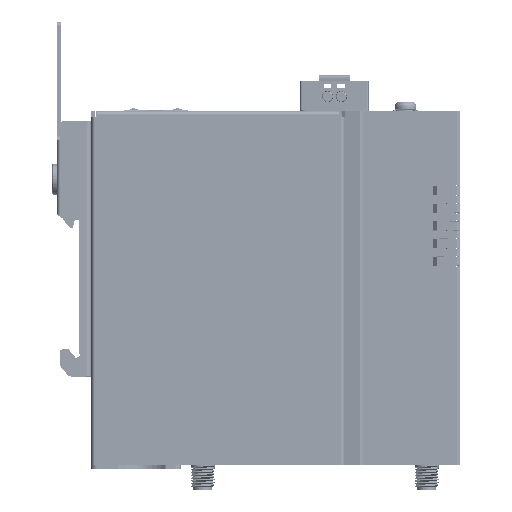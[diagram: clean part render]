
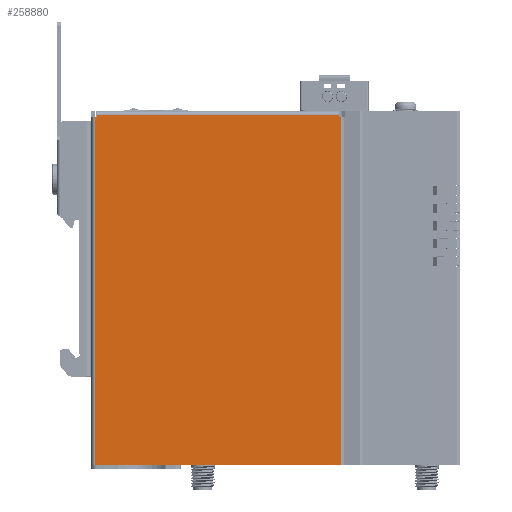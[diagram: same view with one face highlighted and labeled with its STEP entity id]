
A CAD part, top view. The second image highlights one B-rep face of the part: STEP entity #258880.
In plain terms, the highlighted planar face has unit normal (0, 0, 1) as drawn and (0, 1, 0) by its records, which use the part's own axes.
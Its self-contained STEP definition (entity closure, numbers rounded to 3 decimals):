
#5142 = DIRECTION ( 'NONE',  ( 0., 0., 1. ) ) ;
#9399 = FACE_OUTER_BOUND ( 'NONE', #272773, .T. ) ;
#12346 = ORIENTED_EDGE ( 'NONE', *, *, #126663, .F. ) ;
#13715 = VECTOR ( 'NONE', #97264, 1000. ) ;
#17451 = ORIENTED_EDGE ( 'NONE', *, *, #281261, .T. ) ;
#17738 = VERTEX_POINT ( 'NONE', #152803 ) ;
#17752 = VECTOR ( 'NONE', #163124, 1000. ) ;
#19542 = VECTOR ( 'NONE', #261545, 1000. ) ;
#22207 = ORIENTED_EDGE ( 'NONE', *, *, #36462, .F. ) ;
#22983 = LINE ( 'NONE', #235436, #17752 ) ;
#26308 = VERTEX_POINT ( 'NONE', #112976 ) ;
#30198 = DIRECTION ( 'NONE',  ( 1., 0., 0. ) ) ;
#36462 = EDGE_CURVE ( 'NONE', #128750, #26308, #121064, .T. ) ;
#37540 = VECTOR ( 'NONE', #41987, 1000. ) ;
#41987 = DIRECTION ( 'NONE',  ( 1., 0., 0. ) ) ;
#45248 = CARTESIAN_POINT ( 'NONE',  ( 30.481, 39., -90. ) ) ;
#52046 = EDGE_CURVE ( 'NONE', #17738, #151651, #269259, .T. ) ;
#81854 = EDGE_CURVE ( 'NONE', #216211, #177186, #22983, .T. ) ;
#83250 = DIRECTION ( 'NONE',  ( 0., -1., 0. ) ) ;
#89706 = LINE ( 'NONE', #182140, #37540 ) ;
#97264 = DIRECTION ( 'NONE',  ( 0., 0., 1. ) ) ;
#112611 = VECTOR ( 'NONE', #30198, 1000. ) ;
#112976 = CARTESIAN_POINT ( 'NONE',  ( 93., 39., -90. ) ) ;
#119155 = EDGE_CURVE ( 'NONE', #128750, #216211, #162314, .T. ) ;
#121064 = LINE ( 'NONE', #213500, #112611 ) ;
#126663 = EDGE_CURVE ( 'NONE', #26308, #17738, #221047, .T. ) ;
#128750 = VERTEX_POINT ( 'NONE', #253051 ) ;
#129066 = DIRECTION ( 'NONE',  ( -1., 0., 0. ) ) ;
#129646 = CARTESIAN_POINT ( 'NONE',  ( 30.981, 39., -1. ) ) ;
#130248 = VERTEX_POINT ( 'NONE', #129646 ) ;
#151051 = PLANE ( 'NONE',  #288874 ) ;
#151651 = VERTEX_POINT ( 'NONE', #208732 ) ;
#152803 = CARTESIAN_POINT ( 'NONE',  ( 93., 39., -1.5 ) ) ;
#162314 = LINE ( 'NONE', #45248, #169294 ) ;
#163124 = DIRECTION ( 'NONE',  ( 1., 0., 0. ) ) ;
#167350 = DIRECTION ( 'NONE',  ( 0., 0., 1. ) ) ;
#167663 = CARTESIAN_POINT ( 'NONE',  ( 30.981, 39., -90. ) ) ;
#169294 = VECTOR ( 'NONE', #5142, 1000. ) ;
#169392 = VECTOR ( 'NONE', #129066, 1000. ) ;
#177186 = VERTEX_POINT ( 'NONE', #210630 ) ;
#177695 = ORIENTED_EDGE ( 'NONE', *, *, #119155, .T. ) ;
#182140 = CARTESIAN_POINT ( 'NONE',  ( 29.903, 39., -1. ) ) ;
#192306 = CARTESIAN_POINT ( 'NONE',  ( 29.903, 39., -1.5 ) ) ;
#194422 = ORIENTED_EDGE ( 'NONE', *, *, #52046, .F. ) ;
#197170 = CARTESIAN_POINT ( 'NONE',  ( 29.903, 39., -90. ) ) ;
#197931 = CARTESIAN_POINT ( 'NONE',  ( 93., 39., -90. ) ) ;
#201710 = ORIENTED_EDGE ( 'NONE', *, *, #258757, .F. ) ;
#208732 = CARTESIAN_POINT ( 'NONE',  ( 92.5, 39., -1.5 ) ) ;
#210630 = CARTESIAN_POINT ( 'NONE',  ( 30.981, 39., -1.5 ) ) ;
#210773 = CARTESIAN_POINT ( 'NONE',  ( 30.481, 39., -1.5 ) ) ;
#213500 = CARTESIAN_POINT ( 'NONE',  ( 29.903, 39., -90. ) ) ;
#216211 = VERTEX_POINT ( 'NONE', #210773 ) ;
#221047 = LINE ( 'NONE', #197931, #251347 ) ;
#227513 = EDGE_CURVE ( 'NONE', #177186, #130248, #283110, .T. ) ;
#233502 = ORIENTED_EDGE ( 'NONE', *, *, #81854, .T. ) ;
#235436 = CARTESIAN_POINT ( 'NONE',  ( 29.903, 39., -1.5 ) ) ;
#240391 = LINE ( 'NONE', #260504, #13715 ) ;
#244988 = DIRECTION ( 'NONE',  ( 0., 0., -1. ) ) ;
#251347 = VECTOR ( 'NONE', #167350, 1000. ) ;
#253051 = CARTESIAN_POINT ( 'NONE',  ( 30.481, 39., -90. ) ) ;
#258757 = EDGE_CURVE ( 'NONE', #151651, #296973, #240391, .T. ) ;
#258880 = ADVANCED_FACE ( 'NONE', ( #9399 ), #151051, .F. ) ;
#260504 = CARTESIAN_POINT ( 'NONE',  ( 92.5, 39., -90. ) ) ;
#261545 = DIRECTION ( 'NONE',  ( 0., 0., 1. ) ) ;
#269259 = LINE ( 'NONE', #192306, #169392 ) ;
#272283 = ORIENTED_EDGE ( 'NONE', *, *, #227513, .T. ) ;
#272773 = EDGE_LOOP ( 'NONE', ( #12346, #22207, #177695, #233502, #272283, #17451, #201710, #194422 ) ) ;
#281261 = EDGE_CURVE ( 'NONE', #130248, #296973, #89706, .T. ) ;
#283110 = LINE ( 'NONE', #167663, #19542 ) ;
#288874 = AXIS2_PLACEMENT_3D ( 'NONE', #197170, #83250, #244988 ) ;
#293694 = CARTESIAN_POINT ( 'NONE',  ( 92.5, 39., -1. ) ) ;
#296973 = VERTEX_POINT ( 'NONE', #293694 ) ;
